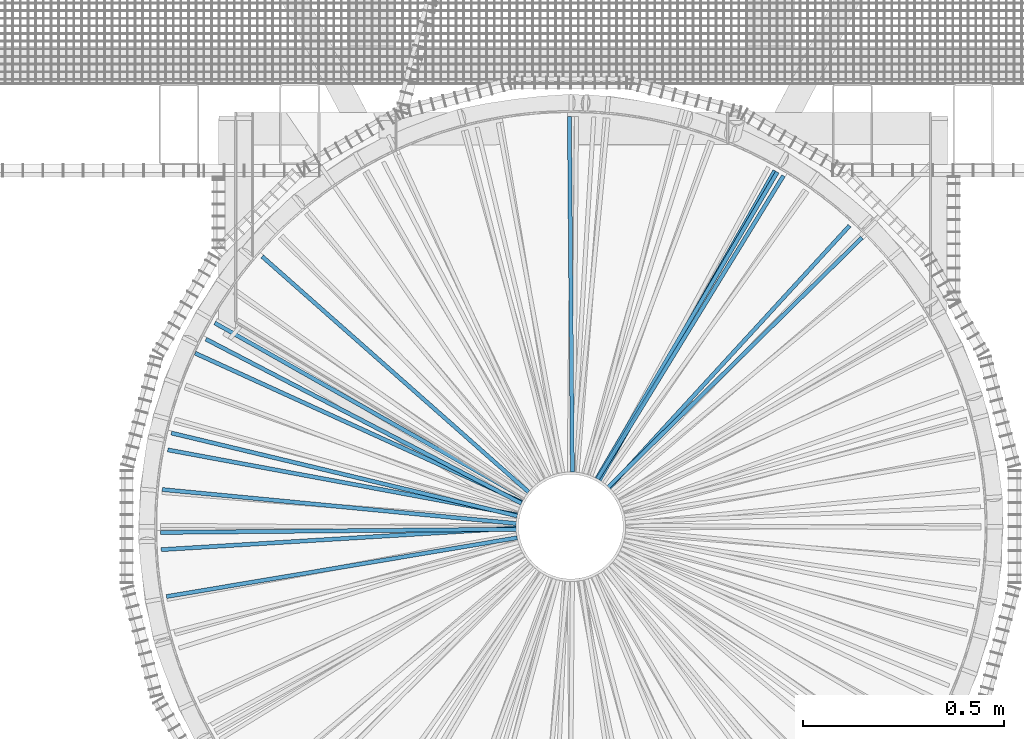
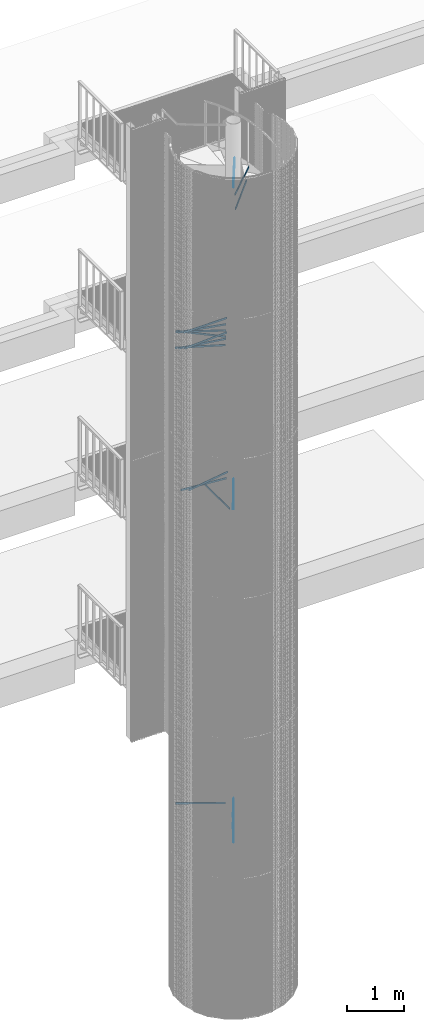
# One storey, part 225 of 1183: 17 beams, 4 elements without a shape of their own.
"""IFC2X3 building model written with IfcOpenShell, lengths in millimetres."""

from ifc_helpers import new_model, si_unit, frame, origin_with_axes, origin_2d_with_axis, place, context, subcontext, project, spatial, polyline, rectangle, outline, extrude, boolean, material, type_object, element, aggregate, save


model = new_model("IFC2X3")

# Units and contexts
model_context = context("Model", 3, precision=1e-05, world=origin_with_axes())
body_context = subcontext(model_context, "Body", "Model", "MODEL_VIEW")
ifc_project = project(units=[si_unit("LENGTHUNIT", "METRE", prefix="MILLI"), si_unit("AREAUNIT", "SQUARE_METRE"), si_unit("VOLUMEUNIT", "CUBIC_METRE"), si_unit("MASSUNIT", "GRAM", prefix="KILO"), si_unit("TIMEUNIT", "SECOND"), si_unit("PLANEANGLEUNIT", "RADIAN"), si_unit("SOLIDANGLEUNIT", "STERADIAN"), si_unit("THERMODYNAMICTEMPERATUREUNIT", "DEGREE_CELSIUS"), si_unit("LUMINOUSINTENSITYUNIT", "LUMEN")], contexts=[model_context])

# Site, building, storey
site_placement = place(None, origin_with_axes())
site = spatial("IfcSite", under=ifc_project, at=site_placement, Name="Undefined", CompositionType="ELEMENT")
building_placement = place(site_placement, origin_with_axes())
building = spatial("IfcBuilding", under=site, at=building_placement, Name="Undefined", CompositionType="ELEMENT")
storey_placement = place(building_placement, origin_with_axes())
storey = spatial("IfcBuildingStorey", under=building, at=storey_placement, Name="Undefined", CompositionType="ELEMENT", Elevation=0.0)

# Assembly, beams
assembly_1_placement = place(storey_placement, origin_with_axes())
assembly_1 = element("IfcElementAssembly", 1, at=assembly_1_placement, inside=storey, Name="POTEAU", AssemblyPlace="NOTDEFINED", PredefinedType="NOTDEFINED")
ifc_material = material(Name="STEEL/S235JR")
beam_type = type_object("IfcBeamType", Name="PL10*40", PredefinedType="NOTDEFINED")
beam_1_placement = place(assembly_1_placement, frame((38.2598530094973, 74.8463745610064, 10065.96), z_axis=(0.0, 0.0, 1.0), x_axis=(0.507316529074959, 0.861759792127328, 0.0)))
beam_1 = element("IfcBeam", 2, at=beam_1_placement, type_object=beam_type, material=ifc_material, Name="RAIDISSEUR", context=body_context, shape_type="CSG", body=[
    boolean("DIFFERENCE", extrude(rectangle(XDim=10.0, YDim=40.0, at=origin_2d_with_axis()), frame((935.982964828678, -2.59787459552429e-14, -3.63797880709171e-12), z_axis=(-1.0, 0.0, 0.0), x_axis=(0.0, -1.0, 0.0)), (0.0, 0.0, 1.0), 935.98), extrude(outline(polyline([(0.0, 0.0), (30.5663019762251, -4.91127138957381e-11), (60.366242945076, 6.80164206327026), (87.9055294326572, 20.0638634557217), (111.803226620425, 39.1216410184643), (130.861004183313, 63.0193382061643), (144.123225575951, 90.5586246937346), (150.9248676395, 120.358565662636), (150.924867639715, 150.924867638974), (144.123225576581, 180.724808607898), (130.86100418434, 208.264095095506), (111.803226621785, 232.161792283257), (87.9055294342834, 251.219569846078), (60.3662429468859, 264.481791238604), (30.5663019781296, 271.283433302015), (1.90266291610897e-09, 271.28343330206), (-29.7999409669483, 264.481791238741), (-57.3392274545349, 251.219569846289), (-81.2369246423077, 232.161792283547), (-100.294702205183, 208.26409509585), (-113.556923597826, 180.724808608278), (-120.35856566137, 150.92486763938), (-120.358565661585, 120.358565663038), (-113.556923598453, 90.5586246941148), (-100.294702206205, 63.0193382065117), (-81.2369246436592, 39.1216410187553), (-57.3392274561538, 20.0638634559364), (-29.7999409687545, 6.80164206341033), (0.0, 0.0)])), frame((-150.204031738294, 114.320068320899, -22.5), z_axis=(0.0, 0.0, 1.0), x_axis=(-0.814264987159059, -0.580493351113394, 0.0)), (0.0, 0.0, 1.0), 45.0)),
])
beam_2_placement = place(assembly_1_placement, frame((4.2891826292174, 83.9487882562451, 10065.96), z_axis=(0.0, 0.0, 1.0), x_axis=(-0.00846910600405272, 0.99996413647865, 0.0)))
beam_2 = element("IfcBeam", 3, at=beam_2_placement, type_object=beam_type, material=ifc_material, Name="RAIDISSEUR", context=body_context, shape_type="CSG", body=[
    boolean("DIFFERENCE", extrude(rectangle(XDim=10.0, YDim=40.0, at=origin_2d_with_axis()), frame((935.982964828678, -2.59787459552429e-14, -3.63797880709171e-12), z_axis=(-1.0, 0.0, 0.0), x_axis=(0.0, -1.0, 0.0)), (0.0, 0.0, 1.0), 935.98), extrude(outline(polyline([(0.0, 0.0), (30.5663019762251, -4.91127138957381e-11), (60.366242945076, 6.80164206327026), (87.9055294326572, 20.0638634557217), (111.803226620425, 39.1216410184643), (130.861004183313, 63.0193382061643), (144.123225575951, 90.5586246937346), (150.9248676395, 120.358565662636), (150.924867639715, 150.924867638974), (144.123225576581, 180.724808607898), (130.86100418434, 208.264095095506), (111.803226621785, 232.161792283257), (87.9055294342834, 251.219569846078), (60.3662429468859, 264.481791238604), (30.5663019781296, 271.283433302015), (1.90266291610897e-09, 271.28343330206), (-29.7999409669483, 264.481791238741), (-57.3392274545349, 251.219569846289), (-81.2369246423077, 232.161792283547), (-100.294702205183, 208.26409509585), (-113.556923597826, 180.724808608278), (-120.35856566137, 150.92486763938), (-120.358565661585, 120.358565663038), (-113.556923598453, 90.5586246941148), (-100.294702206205, 63.0193382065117), (-81.2369246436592, 39.1216410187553), (-57.3392274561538, 20.0638634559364), (-29.7999409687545, 6.80164206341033), (0.0, 0.0)])), frame((-79.3508607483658, 141.423858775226, -22.5), z_axis=(0.0, 0.0, 1.0), x_axis=(-0.996897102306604, -0.0787157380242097, 0.0)), (0.0, 0.0, 1.0), 45.0)),
])
aggregate(assembly_1, [beam_1, beam_2])

assembly_2_placement = place(storey_placement, origin_with_axes())
assembly_2 = element("IfcElementAssembly", 4, at=assembly_2_placement, inside=storey, Name="POTEAU", AssemblyPlace="NOTDEFINED", PredefinedType="NOTDEFINED")
beam_3_placement = place(assembly_2_placement, frame((45.6889352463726, 70.5571919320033, 2911.88), z_axis=(0.0, 0.0, 1.0), x_axis=(0.492647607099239, 0.870228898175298, 0.0)))
beam_3 = element("IfcBeam", 5, at=beam_3_placement, type_object=beam_type, material=ifc_material, Name="RAIDISSEUR", context=body_context, shape_type="CSG", body=[
    boolean("DIFFERENCE", extrude(rectangle(XDim=10.0, YDim=40.0, at=origin_2d_with_axis()), frame((935.982964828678, -2.59787459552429e-14, -3.63797880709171e-12), z_axis=(-1.0, 0.0, 0.0), x_axis=(0.0, -1.0, 0.0)), (0.0, 0.0, 1.0), 935.98), extrude(outline(polyline([(0.0, 0.0), (30.5663019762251, -4.91127138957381e-11), (60.366242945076, 6.80164206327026), (87.9055294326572, 20.0638634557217), (111.803226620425, 39.1216410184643), (130.861004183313, 63.0193382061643), (144.123225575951, 90.5586246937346), (150.9248676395, 120.358565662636), (150.924867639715, 150.924867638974), (144.123225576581, 180.724808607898), (130.86100418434, 208.264095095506), (111.803226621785, 232.161792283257), (87.9055294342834, 251.219569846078), (60.3662429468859, 264.481791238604), (30.5663019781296, 271.283433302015), (1.90266291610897e-09, 271.28343330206), (-29.7999409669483, 264.481791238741), (-57.3392274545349, 251.219569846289), (-81.2369246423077, 232.161792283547), (-100.294702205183, 208.26409509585), (-113.556923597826, 180.724808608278), (-120.35856566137, 150.92486763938), (-120.358565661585, 120.358565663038), (-113.556923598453, 90.5586246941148), (-100.294702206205, 63.0193382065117), (-81.2369246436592, 39.1216410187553), (-57.3392274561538, 20.0638634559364), (-29.7999409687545, 6.80164206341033), (0.0, 0.0)])), frame((-148.173525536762, 125.425823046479, -22.5), z_axis=(0.0, 0.0, 1.0), x_axis=(-0.823980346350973, -0.56661838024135, 0.0)), (0.0, 0.0, 1.0), 45.0)),
])
beam_4_placement = place(assembly_2_placement, frame((38.2598530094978, 74.8463745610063, 3220.92), z_axis=(0.0, 0.0, 1.0), x_axis=(0.507316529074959, 0.861759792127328, 0.0)))
beam_4 = element("IfcBeam", 6, at=beam_4_placement, type_object=beam_type, material=ifc_material, Name="RAIDISSEUR", context=body_context, shape_type="CSG", body=[
    boolean("DIFFERENCE", extrude(rectangle(XDim=10.0, YDim=40.0, at=origin_2d_with_axis()), frame((935.982964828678, -2.59787459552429e-14, -3.63797880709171e-12), z_axis=(-1.0, 0.0, 0.0), x_axis=(0.0, -1.0, 0.0)), (0.0, 0.0, 1.0), 935.98), extrude(outline(polyline([(0.0, 0.0), (30.5663019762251, -4.91127138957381e-11), (60.366242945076, 6.80164206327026), (87.9055294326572, 20.0638634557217), (111.803226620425, 39.1216410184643), (130.861004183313, 63.0193382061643), (144.123225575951, 90.5586246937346), (150.9248676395, 120.358565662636), (150.924867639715, 150.924867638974), (144.123225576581, 180.724808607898), (130.86100418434, 208.264095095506), (111.803226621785, 232.161792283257), (87.9055294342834, 251.219569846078), (60.3662429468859, 264.481791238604), (30.5663019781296, 271.283433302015), (1.90266291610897e-09, 271.28343330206), (-29.7999409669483, 264.481791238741), (-57.3392274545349, 251.219569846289), (-81.2369246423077, 232.161792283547), (-100.294702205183, 208.26409509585), (-113.556923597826, 180.724808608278), (-120.35856566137, 150.92486763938), (-120.358565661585, 120.358565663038), (-113.556923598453, 90.5586246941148), (-100.294702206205, 63.0193382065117), (-81.2369246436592, 39.1216410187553), (-57.3392274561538, 20.0638634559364), (-29.7999409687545, 6.80164206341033), (0.0, 0.0)])), frame((-150.204031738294, 114.320068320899, -22.5), z_axis=(0.0, 0.0, 1.0), x_axis=(-0.814264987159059, -0.580493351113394, 0.0)), (0.0, 0.0, 1.0), 45.0)),
])
beam_5_placement = place(assembly_2_placement, frame((-70.557191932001, 45.6889352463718, 3839.0), z_axis=(0.0, 0.0, 1.0), x_axis=(-0.870228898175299, 0.492647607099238, 0.0)))
beam_5 = element("IfcBeam", 7, at=beam_5_placement, type_object=beam_type, material=ifc_material, Name="RAIDISSEUR", context=body_context, shape_type="CSG", body=[
    boolean("DIFFERENCE", extrude(rectangle(XDim=10.0, YDim=40.0, at=origin_2d_with_axis()), frame((935.982964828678, -2.59787459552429e-14, -3.63797880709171e-12), z_axis=(-1.0, 0.0, 0.0), x_axis=(0.0, -1.0, 0.0)), (0.0, 0.0, 1.0), 935.98), extrude(outline(polyline([(0.0, 0.0), (30.5663019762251, -4.91127138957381e-11), (60.366242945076, 6.80164206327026), (87.9055294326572, 20.0638634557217), (111.803226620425, 39.1216410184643), (130.861004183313, 63.0193382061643), (144.123225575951, 90.5586246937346), (150.9248676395, 120.358565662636), (150.924867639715, 150.924867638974), (144.123225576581, 180.724808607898), (130.86100418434, 208.264095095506), (111.803226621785, 232.161792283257), (87.9055294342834, 251.219569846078), (60.3662429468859, 264.481791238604), (30.5663019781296, 271.283433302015), (1.90266291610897e-09, 271.28343330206), (-29.7999409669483, 264.481791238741), (-57.3392274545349, 251.219569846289), (-81.2369246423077, 232.161792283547), (-100.294702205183, 208.26409509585), (-113.556923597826, 180.724808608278), (-120.35856566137, 150.92486763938), (-120.358565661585, 120.358565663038), (-113.556923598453, 90.5586246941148), (-100.294702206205, 63.0193382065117), (-81.2369246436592, 39.1216410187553), (-57.3392274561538, 20.0638634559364), (-29.7999409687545, 6.80164206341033), (0.0, 0.0)])), frame((36.5163710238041, 69.264073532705, -22.5000000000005), z_axis=(0.0, 0.0, 1.0), x_axis=(-0.566618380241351, 0.823980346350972, 0.0)), (0.0, 0.0, 1.0), 45.0)),
])
aggregate(assembly_2, [beam_3, beam_4, beam_5])

assembly_3_placement = place(storey_placement, origin_with_axes())
assembly_3 = element("IfcElementAssembly", 8, at=assembly_3_placement, inside=storey, Name="POTEAU", AssemblyPlace="NOTDEFINED", PredefinedType="NOTDEFINED")
beam_6_placement = place(assembly_3_placement, frame((56.3278473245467, 62.3936675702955, 16796.4), z_axis=(0.0, 0.0, 1.0), x_axis=(0.713069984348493, 0.70109285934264, 0.0)))
beam_6 = element("IfcBeam", 9, at=beam_6_placement, type_object=beam_type, material=ifc_material, Name="RAIDISSEUR", context=body_context, shape_type="CSG", body=[
    boolean("DIFFERENCE", extrude(rectangle(XDim=10.0, YDim=40.0, at=origin_2d_with_axis()), frame((935.982964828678, -2.59787459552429e-14, -3.63797880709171e-12), z_axis=(-1.0, 0.0, 0.0), x_axis=(0.0, -1.0, 0.0)), (0.0, 0.0, 1.0), 935.98), extrude(outline(polyline([(0.0, 0.0), (30.5663019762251, -4.91127138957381e-11), (60.366242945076, 6.80164206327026), (87.9055294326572, 20.0638634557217), (111.803226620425, 39.1216410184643), (130.861004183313, 63.0193382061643), (144.123225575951, 90.5586246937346), (150.9248676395, 120.358565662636), (150.924867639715, 150.924867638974), (144.123225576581, 180.724808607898), (130.86100418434, 208.264095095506), (111.803226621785, 232.161792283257), (87.9055294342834, 251.219569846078), (60.3662429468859, 264.481791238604), (30.5663019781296, 271.283433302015), (1.90266291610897e-09, 271.28343330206), (-29.7999409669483, 264.481791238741), (-57.3392274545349, 251.219569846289), (-81.2369246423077, 232.161792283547), (-100.294702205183, 208.26409509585), (-113.556923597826, 180.724808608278), (-120.35856566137, 150.92486763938), (-120.358565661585, 120.358565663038), (-113.556923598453, 90.5586246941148), (-100.294702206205, 63.0193382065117), (-81.2369246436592, 39.1216410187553), (-57.3392274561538, 20.0638634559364), (-29.7999409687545, 6.80164206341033), (0.0, 0.0)])), frame((-178.827404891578, 93.0960356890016, -22.5), z_axis=(0.0, 0.0, 1.0), x_axis=(-0.636276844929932, -0.771460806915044, 0.0)), (0.0, 0.0, 1.0), 45.0)),
])
beam_7_placement = place(assembly_3_placement, frame((-83.8611458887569, -5.75363773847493, 14292.08), z_axis=(0.0, 0.0, 1.0), x_axis=(-0.999959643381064, -0.00898396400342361, 0.0)))
beam_7 = element("IfcBeam", 10, at=beam_7_placement, type_object=beam_type, material=ifc_material, Name="RAIDISSEUR", context=body_context, shape_type="CSG", body=[
    boolean("DIFFERENCE", extrude(rectangle(XDim=10.0, YDim=40.0, at=origin_2d_with_axis()), frame((935.982964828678, -2.59787459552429e-14, -3.63797880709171e-12), z_axis=(-1.0, 0.0, 0.0), x_axis=(0.0, -1.0, 0.0)), (0.0, 0.0, 1.0), 935.98), extrude(outline(polyline([(0.0, 0.0), (30.5663019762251, -4.91127138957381e-11), (60.366242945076, 6.80164206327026), (87.9055294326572, 20.0638634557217), (111.803226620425, 39.1216410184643), (130.861004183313, 63.0193382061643), (144.123225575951, 90.5586246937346), (150.9248676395, 120.358565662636), (150.924867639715, 150.924867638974), (144.123225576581, 180.724808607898), (130.86100418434, 208.264095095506), (111.803226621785, 232.161792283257), (87.9055294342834, 251.219569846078), (60.3662429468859, 264.481791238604), (30.5663019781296, 271.283433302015), (1.90266291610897e-09, 271.28343330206), (-29.7999409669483, 264.481791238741), (-57.3392274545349, 251.219569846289), (-81.2369246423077, 232.161792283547), (-100.294702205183, 208.26409509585), (-113.556923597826, 180.724808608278), (-120.35856566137, 150.92486763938), (-120.358565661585, 120.358565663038), (-113.556923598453, 90.5586246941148), (-100.294702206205, 63.0193382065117), (-81.2369246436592, 39.1216410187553), (-57.3392274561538, 20.0638634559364), (-29.7999409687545, 6.80164206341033), (0.0, 0.0)])), frame((52.5120415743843, -9.62883227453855, -22.4999999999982), z_axis=(0.0, 0.0, 1.0), x_axis=(-0.0782024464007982, 0.996937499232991, 0.0)), (0.0, 0.0, 1.0), 45.0)),
])
beam_8_placement = place(assembly_3_placement, frame((60.3898455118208, 58.4710415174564, 16483.36), z_axis=(0.0, 0.0, 1.0), x_axis=(0.67577998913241, 0.737103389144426, 0.0)))
beam_8 = element("IfcBeam", 11, at=beam_8_placement, type_object=beam_type, material=ifc_material, Name="RAIDISSEUR", context=body_context, shape_type="CSG", body=[
    boolean("DIFFERENCE", extrude(rectangle(XDim=10.0, YDim=40.0, at=origin_2d_with_axis()), frame((935.982964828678, -2.59787459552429e-14, -3.63797880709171e-12), z_axis=(-1.0, 0.0, 0.0), x_axis=(0.0, -1.0, 0.0)), (0.0, 0.0, 1.0), 935.98), extrude(outline(polyline([(0.0, 0.0), (30.5663019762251, -4.91127138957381e-11), (60.366242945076, 6.80164206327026), (87.9055294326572, 20.0638634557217), (111.803226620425, 39.1216410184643), (130.861004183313, 63.0193382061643), (144.123225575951, 90.5586246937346), (150.9248676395, 120.358565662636), (150.924867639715, 150.924867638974), (144.123225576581, 180.724808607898), (130.86100418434, 208.264095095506), (111.803226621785, 232.161792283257), (87.9055294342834, 251.219569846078), (60.3662429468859, 264.481791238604), (30.5663019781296, 271.283433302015), (1.90266291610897e-09, 271.28343330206), (-29.7999409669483, 264.481791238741), (-57.3392274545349, 251.219569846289), (-81.2369246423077, 232.161792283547), (-100.294702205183, 208.26409509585), (-113.556923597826, 180.724808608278), (-120.35856566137, 150.92486763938), (-120.358565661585, 120.358565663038), (-113.556923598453, 90.5586246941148), (-100.294702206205, 63.0193382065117), (-81.2369246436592, 39.1216410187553), (-57.3392274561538, 20.0638634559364), (-29.7999409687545, 6.80164206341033), (0.0, 0.0)])), frame((-173.6163573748, 107.883045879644, -22.5), z_axis=(0.0, 0.0, 1.0), x_axis=(-0.675400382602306, -0.737451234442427, 0.0)), (0.0, 0.0, 1.0), 45.0)),
])
beam_9_placement = place(assembly_3_placement, frame((-66.170911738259, 51.8382732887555, 13822.52), z_axis=(0.0, 0.0, 1.0), x_axis=(-0.749126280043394, 0.662427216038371, 0.0)))
beam_9 = element("IfcBeam", 12, at=beam_9_placement, type_object=beam_type, material=ifc_material, Name="RAIDISSEUR", context=body_context, shape_type="CSG", body=[
    boolean("DIFFERENCE", extrude(rectangle(XDim=10.0, YDim=40.0, at=origin_2d_with_axis()), frame((935.982964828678, -2.59787459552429e-14, -3.63797880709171e-12), z_axis=(-1.0, 0.0, 0.0), x_axis=(0.0, -1.0, 0.0)), (0.0, 0.0, 1.0), 935.98), extrude(outline(polyline([(0.0, 0.0), (30.5663019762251, -4.91127138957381e-11), (60.366242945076, 6.80164206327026), (87.9055294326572, 20.0638634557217), (111.803226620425, 39.1216410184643), (130.861004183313, 63.0193382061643), (144.123225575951, 90.5586246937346), (150.9248676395, 120.358565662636), (150.924867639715, 150.924867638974), (144.123225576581, 180.724808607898), (130.86100418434, 208.264095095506), (111.803226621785, 232.161792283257), (87.9055294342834, 251.219569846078), (60.3662429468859, 264.481791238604), (30.5663019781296, 271.283433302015), (1.90266291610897e-09, 271.28343330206), (-29.7999409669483, 264.481791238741), (-57.3392274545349, 251.219569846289), (-81.2369246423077, 232.161792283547), (-100.294702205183, 208.26409509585), (-113.556923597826, 180.724808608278), (-120.35856566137, 150.92486763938), (-120.358565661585, 120.358565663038), (-113.556923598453, 90.5586246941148), (-100.294702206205, 63.0193382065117), (-81.2369246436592, 39.1216410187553), (-57.3392274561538, 20.0638634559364), (-29.7999409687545, 6.80164206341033), (0.0, 0.0)])), frame((20.5687683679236, 82.8439039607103, -22.5), z_axis=(0.0, 0.0, 1.0), x_axis=(-0.725197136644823, 0.688541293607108, 0.0)), (0.0, 0.0, 1.0), 45.0)),
])
beam_10_placement = place(assembly_3_placement, frame((-84.0582178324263, -0.110235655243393, 13979.04), z_axis=(0.0, 0.0, 1.0), x_axis=(-0.998150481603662, -0.0607915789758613, 0.0)))
beam_10 = element("IfcBeam", 13, at=beam_10_placement, type_object=beam_type, material=ifc_material, Name="RAIDISSEUR", context=body_context, shape_type="CSG", body=[
    boolean("DIFFERENCE", extrude(rectangle(XDim=10.0, YDim=40.0, at=origin_2d_with_axis()), frame((935.982964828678, -2.59787459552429e-14, -3.63797880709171e-12), z_axis=(-1.0, 0.0, 0.0), x_axis=(0.0, -1.0, 0.0)), (0.0, 0.0, 1.0), 935.98), extrude(outline(polyline([(0.0, 0.0), (30.5663019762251, -4.91127138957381e-11), (60.366242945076, 6.80164206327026), (87.9055294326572, 20.0638634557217), (111.803226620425, 39.1216410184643), (130.861004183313, 63.0193382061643), (144.123225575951, 90.5586246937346), (150.9248676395, 120.358565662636), (150.924867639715, 150.924867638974), (144.123225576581, 180.724808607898), (130.86100418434, 208.264095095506), (111.803226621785, 232.161792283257), (87.9055294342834, 251.219569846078), (60.3662429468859, 264.481791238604), (30.5663019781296, 271.283433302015), (1.90266291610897e-09, 271.28343330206), (-29.7999409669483, 264.481791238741), (-57.3392274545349, 251.219569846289), (-81.2369246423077, 232.161792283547), (-100.294702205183, 208.26409509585), (-113.556923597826, 180.724808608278), (-120.35856566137, 150.92486763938), (-120.358565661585, 120.358565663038), (-113.556923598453, 90.5586246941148), (-100.294702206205, 63.0193382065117), (-81.2369246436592, 39.1216410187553), (-57.3392274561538, 20.0638634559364), (-29.7999409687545, 6.80164206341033), (0.0, 0.0)])), frame((52.0888643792, -6.69221700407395, -22.5), z_axis=(0.0, 0.0, 1.0), x_axis=(-0.0264342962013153, 0.999650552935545, 0.0)), (0.0, 0.0, 1.0), 45.0)),
])
beam_11_placement = place(assembly_3_placement, frame((-81.5879979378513, 20.2285622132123, 13822.52), z_axis=(0.0, 0.0, 1.0), x_axis=(-0.983207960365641, 0.182488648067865, 0.0)))
beam_11 = element("IfcBeam", 14, at=beam_11_placement, type_object=beam_type, material=ifc_material, Name="RAIDISSEUR", context=body_context, shape_type="CSG", body=[
    boolean("DIFFERENCE", extrude(rectangle(XDim=10.0, YDim=40.0, at=origin_2d_with_axis()), frame((935.982964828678, -2.59787459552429e-14, -3.63797880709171e-12), z_axis=(-1.0, 0.0, 0.0), x_axis=(0.0, -1.0, 0.0)), (0.0, 0.0, 1.0), 935.98), extrude(outline(polyline([(0.0, 0.0), (30.5663019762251, -4.91127138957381e-11), (60.366242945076, 6.80164206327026), (87.9055294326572, 20.0638634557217), (111.803226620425, 39.1216410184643), (130.861004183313, 63.0193382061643), (144.123225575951, 90.5586246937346), (150.9248676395, 120.358565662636), (150.924867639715, 150.924867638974), (144.123225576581, 180.724808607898), (130.86100418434, 208.264095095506), (111.803226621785, 232.161792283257), (87.9055294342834, 251.219569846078), (60.3662429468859, 264.481791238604), (30.5663019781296, 271.283433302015), (1.90266291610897e-09, 271.28343330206), (-29.7999409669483, 264.481791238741), (-57.3392274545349, 251.219569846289), (-81.2369246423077, 232.161792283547), (-100.294702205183, 208.26409509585), (-113.556923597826, 180.724808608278), (-120.35856566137, 150.92486763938), (-120.358565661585, 120.358565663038), (-113.556923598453, 90.5586246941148), (-100.294702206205, 63.0193382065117), (-81.2369246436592, 39.1216410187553), (-57.3392274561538, 20.0638634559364), (-29.7999409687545, 6.80164206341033), (0.0, 0.0)])), frame((50.8777364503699, 26.5560623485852, -22.4999999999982), z_axis=(0.0, 0.0, 1.0), x_axis=(-0.267486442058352, 0.963561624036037, 0.0)), (0.0, 0.0, 1.0), 45.0)),
])
beam_12_placement = place(assembly_3_placement, frame((-82.762042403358, 14.7051172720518, 14135.56), z_axis=(0.0, 0.0, 1.0), x_axis=(-0.972429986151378, 0.233195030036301, 0.0)))
beam_12 = element("IfcBeam", 15, at=beam_12_placement, type_object=beam_type, material=ifc_material, Name="RAIDISSEUR", context=body_context, shape_type="CSG", body=[
    boolean("DIFFERENCE", extrude(rectangle(XDim=10.0, YDim=40.0, at=origin_2d_with_axis()), frame((935.982964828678, -2.59787459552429e-14, -3.63797880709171e-12), z_axis=(-1.0, 0.0, 0.0), x_axis=(0.0, -1.0, 0.0)), (0.0, 0.0, 1.0), 935.98), extrude(outline(polyline([(0.0, 0.0), (30.5663019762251, -4.91127138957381e-11), (60.366242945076, 6.80164206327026), (87.9055294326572, 20.0638634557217), (111.803226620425, 39.1216410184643), (130.861004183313, 63.0193382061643), (144.123225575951, 90.5586246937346), (150.9248676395, 120.358565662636), (150.924867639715, 150.924867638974), (144.123225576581, 180.724808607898), (130.86100418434, 208.264095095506), (111.803226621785, 232.161792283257), (87.9055294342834, 251.219569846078), (60.3662429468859, 264.481791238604), (30.5663019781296, 271.283433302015), (1.90266291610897e-09, 271.28343330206), (-29.7999409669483, 264.481791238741), (-57.3392274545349, 251.219569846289), (-81.2369246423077, 232.161792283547), (-100.294702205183, 208.26409509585), (-113.556923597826, 180.724808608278), (-120.35856566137, 150.92486763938), (-120.358565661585, 120.358565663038), (-113.556923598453, 90.5586246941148), (-100.294702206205, 63.0193382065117), (-81.2369246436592, 39.1216410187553), (-57.3392274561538, 20.0638634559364), (-29.7999409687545, 6.80164206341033), (0.0, 0.0)])), frame((49.5795560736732, 23.5120101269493, -22.5), z_axis=(0.0, 0.0, 1.0), x_axis=(-0.31706050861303, 0.948405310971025, 0.0)), (0.0, 0.0, 1.0), 45.0)),
])
beam_13_placement = place(assembly_3_placement, frame((39.5602751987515, 74.1672485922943, 16952.92), z_axis=(0.0, 0.0, 1.0), x_axis=(0.522279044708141, 0.852774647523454, 0.0)))
beam_13 = element("IfcBeam", 16, at=beam_13_placement, type_object=beam_type, material=ifc_material, Name="RAIDISSEUR", context=body_context, shape_type="CSG", body=[
    boolean("DIFFERENCE", extrude(rectangle(XDim=10.0, YDim=40.0, at=origin_2d_with_axis()), frame((935.982964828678, -2.59787459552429e-14, -3.63797880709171e-12), z_axis=(-1.0, 0.0, 0.0), x_axis=(0.0, -1.0, 0.0)), (0.0, 0.0, 1.0), 935.98), extrude(outline(polyline([(0.0, 0.0), (30.5663019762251, -4.91127138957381e-11), (60.366242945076, 6.80164206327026), (87.9055294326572, 20.0638634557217), (111.803226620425, 39.1216410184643), (130.861004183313, 63.0193382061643), (144.123225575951, 90.5586246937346), (150.9248676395, 120.358565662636), (150.924867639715, 150.924867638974), (144.123225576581, 180.724808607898), (130.86100418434, 208.264095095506), (111.803226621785, 232.161792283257), (87.9055294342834, 251.219569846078), (60.3662429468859, 264.481791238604), (30.5663019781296, 271.283433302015), (1.90266291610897e-09, 271.28343330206), (-29.7999409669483, 264.481791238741), (-57.3392274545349, 251.219569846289), (-81.2369246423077, 232.161792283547), (-100.294702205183, 208.26409509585), (-113.556923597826, 180.724808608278), (-120.35856566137, 150.92486763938), (-120.358565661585, 120.358565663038), (-113.556923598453, 90.5586246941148), (-100.294702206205, 63.0193382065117), (-81.2369246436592, 39.1216410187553), (-57.3392274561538, 20.0638634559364), (-29.7999409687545, 6.80164206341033), (0.0, 0.0)])), frame((-152.276357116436, 113.144895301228, -22.5), z_axis=(0.0, 0.0, 1.0), x_axis=(-0.804009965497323, -0.594615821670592, 0.0)), (0.0, 0.0, 1.0), 45.0)),
])
beam_14_placement = place(assembly_3_placement, frame((-76.7461662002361, 34.2902626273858, 13979.04), z_axis=(0.0, 0.0, 1.0), x_axis=(-0.88712967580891, 0.461520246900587, 0.0)))
beam_14 = element("IfcBeam", 17, at=beam_14_placement, type_object=beam_type, material=ifc_material, Name="RAIDISSEUR", context=body_context, shape_type="CSG", body=[
    boolean("DIFFERENCE", extrude(rectangle(XDim=10.0, YDim=40.0, at=origin_2d_with_axis()), frame((935.982964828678, -2.59787459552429e-14, -3.63797880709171e-12), z_axis=(-1.0, 0.0, 0.0), x_axis=(0.0, -1.0, 0.0)), (0.0, 0.0, 1.0), 935.98), extrude(outline(polyline([(0.0, 0.0), (30.5663019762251, -4.91127138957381e-11), (60.366242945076, 6.80164206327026), (87.9055294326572, 20.0638634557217), (111.803226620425, 39.1216410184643), (130.861004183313, 63.0193382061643), (144.123225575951, 90.5586246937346), (150.9248676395, 120.358565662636), (150.924867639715, 150.924867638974), (144.123225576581, 180.724808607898), (130.86100418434, 208.264095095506), (111.803226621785, 232.161792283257), (87.9055294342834, 251.219569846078), (60.3662429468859, 264.481791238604), (30.5663019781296, 271.283433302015), (1.90266291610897e-09, 271.28343330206), (-29.7999409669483, 264.481791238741), (-57.3392274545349, 251.219569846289), (-81.2369246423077, 232.161792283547), (-100.294702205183, 208.26409509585), (-113.556923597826, 180.724808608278), (-120.35856566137, 150.92486763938), (-120.358565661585, 120.358565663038), (-113.556923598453, 90.5586246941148), (-100.294702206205, 63.0193382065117), (-81.2369246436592, 39.1216410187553), (-57.3392274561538, 20.0638634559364), (-29.7999409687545, 6.80164206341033), (0.0, 0.0)])), frame((38.7166824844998, 54.9589954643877, -22.5000000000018), z_axis=(0.0, 0.0, 1.0), x_axis=(-0.537082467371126, 0.843529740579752, 0.0)), (0.0, 0.0, 1.0), 45.0)),
])
beam_15_placement = place(assembly_3_placement, frame((-74.2707319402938, 39.365600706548, 13666.0), z_axis=(0.0, 0.0, 1.0), x_axis=(-0.909856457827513, 0.41492315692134, 0.0)))
beam_15 = element("IfcBeam", 18, at=beam_15_placement, type_object=beam_type, material=ifc_material, Name="RAIDISSEUR", context=body_context, shape_type="CSG", body=[
    boolean("DIFFERENCE", extrude(rectangle(XDim=10.0, YDim=40.0, at=origin_2d_with_axis()), frame((944.982352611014, -5.24570582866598e-14, 0.0), z_axis=(-1.0, 0.0, 0.0), x_axis=(0.0, -1.0, 0.0)), (0.0, 0.0, 1.0), 944.98), extrude(outline(polyline([(0.0, 0.0), (30.5663019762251, -4.91127138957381e-11), (60.366242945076, 6.80164206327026), (87.9055294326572, 20.0638634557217), (111.803226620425, 39.1216410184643), (130.861004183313, 63.0193382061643), (144.123225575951, 90.5586246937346), (150.9248676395, 120.358565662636), (150.924867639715, 150.924867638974), (144.123225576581, 180.724808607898), (130.86100418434, 208.264095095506), (111.803226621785, 232.161792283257), (87.9055294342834, 251.219569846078), (60.3662429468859, 264.481791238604), (30.5663019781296, 271.283433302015), (1.90266291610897e-09, 271.28343330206), (-29.7999409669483, 264.481791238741), (-57.3392274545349, 251.219569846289), (-81.2369246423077, 232.161792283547), (-100.294702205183, 208.26409509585), (-113.556923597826, 180.724808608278), (-120.35856566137, 150.92486763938), (-120.358565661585, 120.358565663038), (-113.556923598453, 90.5586246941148), (-100.294702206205, 63.0193382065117), (-81.2369246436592, 39.1216410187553), (-57.3392274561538, 20.0638634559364), (-29.7999409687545, 6.80164206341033), (0.0, 0.0)])), frame((41.659399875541, 58.5235289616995, -22.4999999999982), z_axis=(0.0, 0.0, 1.0), x_axis=(-0.492643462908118, 0.870231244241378, 0.0)), (0.0, 0.0, 1.0), 45.0)),
])
aggregate(assembly_3, [beam_6, beam_7, beam_8, beam_9, beam_10, beam_11, beam_12, beam_13, beam_14, beam_15])

assembly_4_placement = place(storey_placement, origin_with_axes())
assembly_4 = element("IfcElementAssembly", 19, at=assembly_4_placement, inside=storey, Name="POTEAU", AssemblyPlace="NOTDEFINED", PredefinedType="NOTDEFINED")
beam_16_placement = place(assembly_4_placement, frame((-81.9286087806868, -18.8015744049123, 11005.12), z_axis=(0.0, 0.0, 1.0), x_axis=(-0.986243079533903, -0.165301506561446, 0.0)))
beam_16 = element("IfcBeam", 20, at=beam_16_placement, type_object=beam_type, material=ifc_material, Name="RAIDISSEUR", context=body_context, shape_type="CSG", body=[
    boolean("DIFFERENCE", extrude(rectangle(XDim=10.0, YDim=40.0, at=origin_2d_with_axis()), frame((935.982964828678, -2.59787459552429e-14, -3.63797880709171e-12), z_axis=(-1.0, 0.0, 0.0), x_axis=(0.0, -1.0, 0.0)), (0.0, 0.0, 1.0), 935.98), extrude(outline(polyline([(0.0, 0.0), (30.5663019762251, -4.91127138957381e-11), (60.366242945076, 6.80164206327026), (87.9055294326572, 20.0638634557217), (111.803226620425, 39.1216410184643), (130.861004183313, 63.0193382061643), (144.123225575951, 90.5586246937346), (150.9248676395, 120.358565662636), (150.924867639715, 150.924867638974), (144.123225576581, 180.724808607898), (130.86100418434, 208.264095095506), (111.803226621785, 232.161792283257), (87.9055294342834, 251.219569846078), (60.3662429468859, 264.481791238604), (30.5663019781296, 271.283433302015), (1.90266291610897e-09, 271.28343330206), (-29.7999409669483, 264.481791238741), (-57.3392274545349, 251.219569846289), (-81.2369246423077, 232.161792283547), (-100.294702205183, 208.26409509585), (-113.556923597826, 180.724808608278), (-120.35856566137, 150.92486763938), (-120.358565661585, 120.358565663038), (-113.556923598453, 90.5586246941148), (-100.294702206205, 63.0193382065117), (-81.2369246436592, 39.1216410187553), (-57.3392274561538, 20.0638634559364), (-29.7999409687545, 6.80164206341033), (0.0, 0.0)])), frame((50.1083576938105, -30.9128670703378, -22.5), z_axis=(0.0, 0.0, 1.0), x_axis=(0.0787157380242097, 0.996897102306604, 0.0)), (0.0, 0.0, 1.0), 45.0)),
])
beam_17_placement = place(assembly_4_placement, frame((-84.0031646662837, 3.04375799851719, 10848.6), z_axis=(0.0, 0.0, 1.0), x_axis=(-0.995420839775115, 0.0955894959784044, 0.0)))
beam_17 = element("IfcBeam", 21, at=beam_17_placement, type_object=beam_type, material=ifc_material, Name="RAIDISSEUR", context=body_context, shape_type="CSG", body=[
    boolean("DIFFERENCE", extrude(rectangle(XDim=10.0, YDim=40.0, at=origin_2d_with_axis()), frame((935.982964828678, -2.59787459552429e-14, -3.63797880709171e-12), z_axis=(-1.0, 0.0, 0.0), x_axis=(0.0, -1.0, 0.0)), (0.0, 0.0, 1.0), 935.98), extrude(outline(polyline([(0.0, 0.0), (30.5663019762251, -4.91127138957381e-11), (60.366242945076, 6.80164206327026), (87.9055294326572, 20.0638634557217), (111.803226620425, 39.1216410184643), (130.861004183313, 63.0193382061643), (144.123225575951, 90.5586246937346), (150.9248676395, 120.358565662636), (150.924867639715, 150.924867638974), (144.123225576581, 180.724808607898), (130.86100418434, 208.264095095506), (111.803226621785, 232.161792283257), (87.9055294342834, 251.219569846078), (60.3662429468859, 264.481791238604), (30.5663019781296, 271.283433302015), (1.90266291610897e-09, 271.28343330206), (-29.7999409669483, 264.481791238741), (-57.3392274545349, 251.219569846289), (-81.2369246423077, 232.161792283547), (-100.294702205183, 208.26409509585), (-113.556923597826, 180.724808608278), (-120.35856566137, 150.92486763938), (-120.358565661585, 120.358565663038), (-113.556923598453, 90.5586246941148), (-100.294702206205, 63.0193382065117), (-81.2369246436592, 39.1216410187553), (-57.3392274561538, 20.0638634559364), (-29.7999409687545, 6.80164206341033), (0.0, 0.0)])), frame((52.2485550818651, 4.65645403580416, -22.5), z_axis=(0.0, 0.0, 1.0), x_axis=(-0.181982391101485, 0.983301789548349, 0.0)), (0.0, 0.0, 1.0), 45.0)),
])
aggregate(assembly_4, [beam_16, beam_17])

save(model, "model.ifc")
